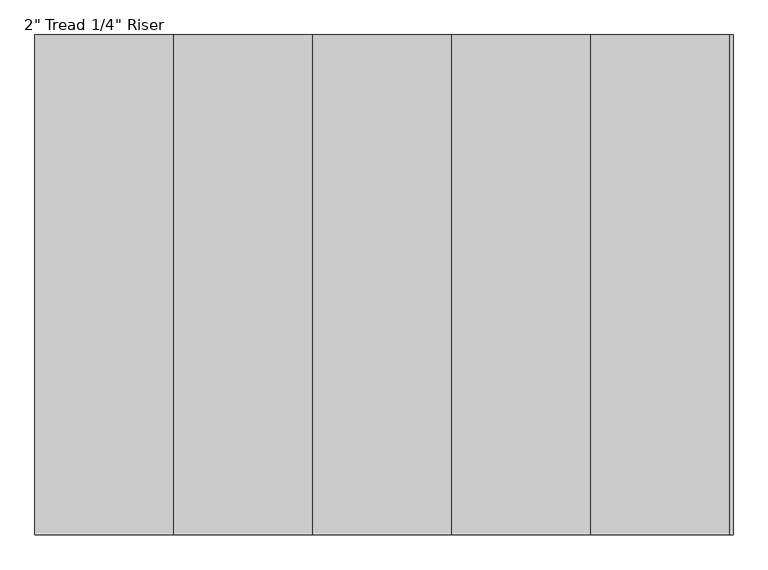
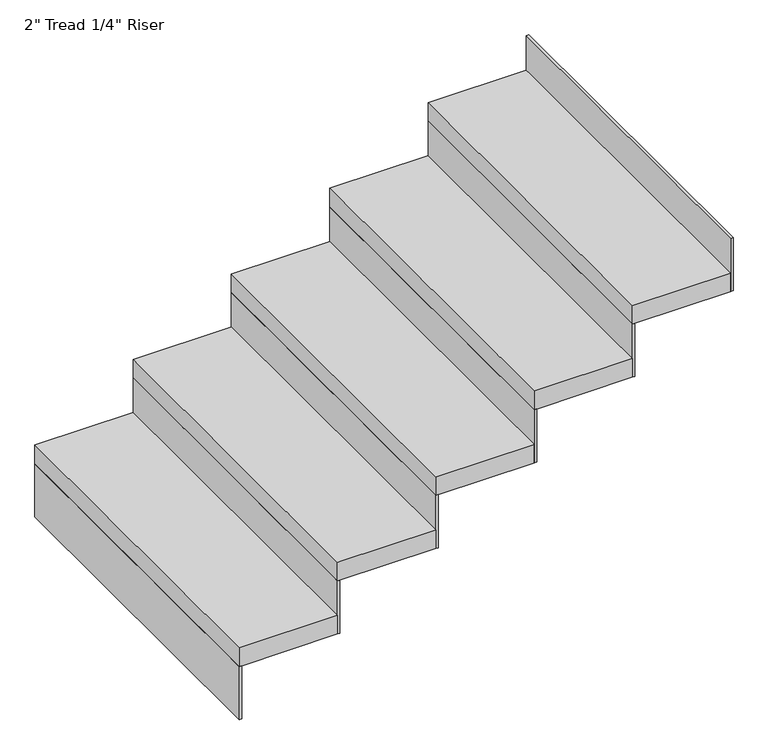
"""IFC4 building model written with IfcOpenShell, lengths in millimetres: stair flight geometry."""

import ifcopenshell
import ifcopenshell.guid

model = None  # the IFC model being written
_history = None  # IfcOwnerHistory: only IFC2X3 demands one
_inside = {}  # id of a spatial element -> (the spatial element, [elements in it])
_under = {}  # id of a project, library or spatial element -> (it, [spatial elements below it])
_declared = {}  # id of a project -> (the project, [libraries it declares])
_typed = {}  # id of a type object -> (the type object, [elements of that type])
_made_of = {}  # id of a material, layer set ... -> (it, [elements and type objects made of it])


def new_model(schema):
    """Start an empty IFC model of exactly this schema.

    Asked for "IFC4X3", IfcOpenShell would pick the latest addendum, in which some entities
    have other attributes; the version numbers below select the first issue.
    IFC2X3 requires an IfcOwnerHistory on every rooted entity: one is made here for all.
    """
    global model, _history
    if schema == "IFC4X3":
        model = ifcopenshell.file(schema_version=(4, 3, 0, 0))
    else:
        model = ifcopenshell.file(schema=schema)
    _inside.clear()
    _under.clear()
    _declared.clear()
    _typed.clear()
    _made_of.clear()
    _history = None
    if model.schema == "IFC2X3":
        org = make("IfcOrganization", Name="unknown")
        user = make(
            "IfcPersonAndOrganization",
            ThePerson=make("IfcPerson", FamilyName="unknown"),
            TheOrganization=org,
        )
        app = make(
            "IfcApplication",
            ApplicationDeveloper=org,
            Version="unknown",
            ApplicationFullName="unknown",
            ApplicationIdentifier="unknown",
        )
        _history = make(
            "IfcOwnerHistory",
            OwningUser=user,
            OwningApplication=app,
            ChangeAction="ADDED",
            CreationDate=0,
        )
    return model


def make(cls, **values):
    """One entity of the class cls with the attributes given. An attribute that is None is left unset."""
    return model.create_entity(
        cls, **{name: value for name, value in values.items() if value is not None}
    )


def rooted(cls, **values):
    """An entity with a GlobalId (a new one), such as an element, a storey or a relation."""
    return make(cls, GlobalId=ifcopenshell.guid.new(), OwnerHistory=_history, **values)


def si_unit(unit_type, name, prefix=None):
    """IfcSIUnit, for example si_unit("LENGTHUNIT", "METRE", prefix="MILLI")."""
    return make("IfcSIUnit", UnitType=unit_type, Prefix=prefix, Name=name)


def assignment(units):
    """IfcUnitAssignment: the units of a project."""
    return None if units is None else make("IfcUnitAssignment", Units=units)


def point(xyz):
    """IfcCartesianPoint."""
    return None if xyz is None else make("IfcCartesianPoint", Coordinates=xyz)


def direction(xyz):
    """IfcDirection."""
    return None if xyz is None else make("IfcDirection", DirectionRatios=xyz)


def frame(location, z_axis=None, x_axis=None):
    """IfcAxis2Placement3D, a coordinate frame: its origin and axes. An axis left out is left unset."""
    return make(
        "IfcAxis2Placement3D",
        Location=point(location),
        Axis=direction(z_axis),
        RefDirection=direction(x_axis),
    )


def origin():
    """The frame at (0, 0, 0) with its axes left unset."""
    return frame((0.0, 0.0, 0.0))


def place(relative_to, where):
    """IfcLocalPlacement: puts the frame where relative to a parent placement (None: the world)."""
    return make(
        "IfcLocalPlacement", PlacementRelTo=relative_to, RelativePlacement=where
    )


def context(
    kind, dimensions, precision=None, world=None, true_north=None, identifier=None
):
    """IfcGeometricRepresentationContext, for example the 3D "Model" context."""
    return make(
        "IfcGeometricRepresentationContext",
        ContextIdentifier=identifier,
        ContextType=kind,
        CoordinateSpaceDimension=dimensions,
        Precision=precision,
        WorldCoordinateSystem=world,
        TrueNorth=true_north,
    )


def project(units=None, contexts=None):
    """IfcProject with its units and contexts."""
    return rooted(
        "IfcProject",
        Name="project",
        RepresentationContexts=contexts,
        UnitsInContext=assignment(units),
    )


def spatial(cls, under=None, at=None, **own):
    """A site, building, storey or space (cls), placed at a placement, below another one or the project."""
    s = rooted(cls, ObjectPlacement=at, **own)
    if under is not None:
        _under.setdefault(under.id(), (under, []))[1].append(s)
    return s


def polyline(points):
    """IfcPolyline through the points."""
    return make("IfcPolyline", Points=[point(p) for p in points])


def outline(outer, holes=None, kind="AREA"):
    """IfcArbitraryClosedProfileDef: a profile drawn as a closed curve; with holes, ...WithVoids."""
    if holes is None:
        return make("IfcArbitraryClosedProfileDef", ProfileType=kind, OuterCurve=outer)
    return make(
        "IfcArbitraryProfileDefWithVoids",
        ProfileType=kind,
        OuterCurve=outer,
        InnerCurves=holes,
    )


def extrude(swept, where, along, depth):
    """IfcExtrudedAreaSolid: the profile swept, set in the frame where, extruded along a direction by depth."""
    return make(
        "IfcExtrudedAreaSolid",
        SweptArea=swept,
        Position=where,
        ExtrudedDirection=direction(along),
        Depth=depth,
    )


def shape(context_of_items, identifier, shape_type, items):
    """IfcShapeRepresentation: the items that make up one representation, for example the "Body"."""
    return make(
        "IfcShapeRepresentation",
        ContextOfItems=context_of_items,
        RepresentationIdentifier=identifier,
        RepresentationType=shape_type,
        Items=items,
    )


def source(mapping_origin, context_of_items, identifier, shape_type, items):
    """IfcRepresentationMap: a shape defined once, which mapped items show again and again."""
    return make(
        "IfcRepresentationMap",
        MappingOrigin=mapping_origin,
        MappedRepresentation=shape(context_of_items, identifier, shape_type, items),
    )


def transform(
    local_origin,
    x_axis=None,
    y_axis=None,
    z_axis=None,
    scale=None,
    scale2=None,
    scale3=None,
    uniform=True,
):
    """IfcCartesianTransformationOperator3D, or its non-uniform kind. x_axis, y_axis, z_axis: its Axis1, 2, 3."""
    if uniform:
        return make(
            "IfcCartesianTransformationOperator3D",
            Axis1=direction(x_axis),
            Axis2=direction(y_axis),
            LocalOrigin=point(local_origin),
            Scale=scale,
            Axis3=direction(z_axis),
        )
    return make(
        "IfcCartesianTransformationOperator3DnonUniform",
        Axis1=direction(x_axis),
        Axis2=direction(y_axis),
        LocalOrigin=point(local_origin),
        Scale=scale,
        Axis3=direction(z_axis),
        Scale2=scale2,
        Scale3=scale3,
    )


def mapped(mapping_source, mapping_target):
    """IfcMappedItem: shows the shape of a source again, moved by a transform."""
    return make(
        "IfcMappedItem", MappingSource=mapping_source, MappingTarget=mapping_target
    )


def made_of(thing, what):
    """Note that an element or type object is made of a material, layer set ...; save() writes the relation."""
    if what is not None:
        _made_of.setdefault(what.id(), (what, []))[1].append(thing)
    return thing


def element(
    cls,
    number,
    at=None,
    inside=None,
    cuts=None,
    type_object=None,
    material=None,
    context=None,
    identifier="Body",
    shape_type=None,
    held_by="IfcProductDefinitionShape",
    body=None,
    shapes=None,
    **own,
):
    """One element of the class cls, such as IfcWall. Its Tag is "e" and its number.

    at: its placement. inside: the storey or other place that contains it. cuts: it is an
    opening in that element (IfcRelVoidsElement). A single representation is given by context,
    identifier, shape_type and body (its items); several are given by shapes. held_by: the class
    of the entity that holds the representations. save() writes the other relations.
    """
    e = rooted(cls, Tag="e%d" % number, ObjectPlacement=at, **own)
    if body is not None:
        shapes = [shape(context, identifier, shape_type, body)]
    if shapes is not None:
        e.Representation = make(held_by, Representations=shapes)
    if inside is not None:
        _inside.setdefault(inside.id(), (inside, []))[1].append(e)
    if cuts is not None:
        rooted(
            "IfcRelVoidsElement", RelatingBuildingElement=cuts, RelatedOpeningElement=e
        )
    if type_object is not None:
        _typed.setdefault(type_object.id(), (type_object, []))[1].append(e)
    return made_of(e, material)


def aggregate(whole, parts):
    """IfcRelAggregates: a whole, such as a stair, and the parts it consists of."""
    return rooted("IfcRelAggregates", RelatingObject=whole, RelatedObjects=parts)


def save(model, path):
    """Write the relations noted so far, then the file.

    IfcRelAggregates (storeys below a building ...), IfcRelContainedInSpatialStructure (elements
    in a storey), IfcRelDefinesByType, IfcRelAssociatesMaterial and IfcRelDeclares: one each for
    every whole, place, type object, material and project.
    """
    for whole, parts in _under.values():
        aggregate(whole, parts)
    for where, things in _inside.values():
        rooted(
            "IfcRelContainedInSpatialStructure",
            RelatedElements=things,
            RelatingStructure=where,
        )
    for kind, things in _typed.values():
        rooted("IfcRelDefinesByType", RelatedObjects=things, RelatingType=kind)
    for what, things in _made_of.values():
        rooted("IfcRelAssociatesMaterial", RelatedObjects=things, RelatingMaterial=what)
    for by, libraries in _declared.values():
        rooted("IfcRelDeclares", RelatingContext=by, RelatedDefinitions=libraries)
    model.write(path)


def stair_flight_840a28c2(model_context):
    return source(origin(), model_context, "Body", "SweptSolid", [
        extrude(outline(polyline([(138283.3974271, -2391.9711813), (138277.0474271, -2391.9711813), (138277.0474271, -1477.5711813), (138283.3974271, -1477.5711813), (138283.3974271, -2391.9711813)])), frame((0.0, 0.0, 2126.3428571), z_axis=(0.0, 0.0, 1.0), x_axis=(1.0, 0.0, 0.0)), (0.0, 0.0, 1.0), 145.1428571),
        extrude(outline(polyline([(138531.0474271, -1477.5711813), (138531.0474271, -2391.9711813), (138277.0474271, -2391.9711813), (138277.0474271, -1477.5711813), (138531.0474271, -1477.5711813)])), frame((0.0, 0.0, 2271.4857143), z_axis=(0.0, 0.0, 1.0), x_axis=(1.0, 0.0, 0.0)), (0.0, 0.0, 1.0), 50.8),
        extrude(outline(polyline([(138537.3974271, -2391.9711813), (138531.0474271, -2391.9711813), (138531.0474271, -1477.5711813), (138537.3974271, -1477.5711813), (138537.3974271, -2391.9711813)])), frame((0.0, 0.0, 2271.4857143), z_axis=(0.0, 0.0, 1.0), x_axis=(1.0, 0.0, 0.0)), (0.0, 0.0, 1.0), 145.1428571),
        extrude(outline(polyline([(138785.0474271, -1477.5711813), (138785.0474271, -2391.9711813), (138531.0474271, -2391.9711813), (138531.0474271, -1477.5711813), (138785.0474271, -1477.5711813)])), frame((0.0, 0.0, 2416.6285714), z_axis=(0.0, 0.0, 1.0), x_axis=(1.0, 0.0, 0.0)), (0.0, 0.0, 1.0), 50.8),
        extrude(outline(polyline([(138791.3974271, -2391.9711813), (138785.0474271, -2391.9711813), (138785.0474271, -1477.5711813), (138791.3974271, -1477.5711813), (138791.3974271, -2391.9711813)])), frame((0.0, 0.0, 2416.6285714), z_axis=(0.0, 0.0, 1.0), x_axis=(1.0, 0.0, 0.0)), (0.0, 0.0, 1.0), 145.1428571),
        extrude(outline(polyline([(139039.0474271, -1477.5711813), (139039.0474271, -2391.9711813), (138785.0474271, -2391.9711813), (138785.0474271, -1477.5711813), (139039.0474271, -1477.5711813)])), frame((0.0, 0.0, 2561.7714286), z_axis=(0.0, 0.0, 1.0), x_axis=(1.0, 0.0, 0.0)), (0.0, 0.0, 1.0), 50.8),
        extrude(outline(polyline([(139045.3974271, -2391.9711813), (139039.0474271, -2391.9711813), (139039.0474271, -1477.5711813), (139045.3974271, -1477.5711813), (139045.3974271, -2391.9711813)])), frame((0.0, 0.0, 2561.7714286), z_axis=(0.0, 0.0, 1.0), x_axis=(1.0, 0.0, 0.0)), (0.0, 0.0, 1.0), 145.1428571),
        extrude(outline(polyline([(139293.0474271, -1477.5711813), (139293.0474271, -2391.9711813), (139039.0474271, -2391.9711813), (139039.0474271, -1477.5711813), (139293.0474271, -1477.5711813)])), frame((0.0, 0.0, 2706.9142857), z_axis=(0.0, 0.0, 1.0), x_axis=(1.0, 0.0, 0.0)), (0.0, 0.0, 1.0), 50.8),
        extrude(outline(polyline([(139299.3974271, -2391.9711813), (139293.0474271, -2391.9711813), (139293.0474271, -1477.5711813), (139299.3974271, -1477.5711813), (139299.3974271, -2391.9711813)])), frame((0.0, 0.0, 2706.9142857), z_axis=(0.0, 0.0, 1.0), x_axis=(1.0, 0.0, 0.0)), (0.0, 0.0, 1.0), 145.1428571),
        extrude(outline(polyline([(139553.3974271, -2391.9711813), (139547.0474271, -2391.9711813), (139547.0474271, -1477.5711813), (139553.3974271, -1477.5711813), (139553.3974271, -2391.9711813)])), frame((0.0, 0.0, 2852.0571429), z_axis=(0.0, 0.0, 1.0), x_axis=(1.0, 0.0, 0.0)), (0.0, 0.0, 1.0), 145.1428571),
        extrude(outline(polyline([(139547.0474271, -1477.5711813), (139547.0474271, -2391.9711813), (139293.0474271, -2391.9711813), (139293.0474271, -1477.5711813), (139547.0474271, -1477.5711813)])), frame((0.0, 0.0, 2852.0571429), z_axis=(0.0, 0.0, 1.0), x_axis=(1.0, 0.0, 0.0)), (0.0, 0.0, 1.0), 50.8),
    ])


if __name__ == "__main__":
    model = new_model("IFC4")
    model_context = context("Model", 3, world=origin())
    ifc_project = project(units=[si_unit("LENGTHUNIT", "METRE", prefix="MILLI")], contexts=[model_context])
    site = spatial("IfcSite", under=ifc_project)
    building = spatial("IfcBuilding", under=site)
    placement = place(None, origin())
    stair_flight_shape = stair_flight_840a28c2(model_context)
    element("IfcStairFlight", 1, ObjectType="2\" Tread 1/4\" Riser", at=placement, inside=building, context=model_context, shape_type="MappedRepresentation", body=[
        mapped(stair_flight_shape, transform((0.0, 0.0, 0.0), x_axis=(1.0, 0.0, 0.0), y_axis=(0.0, 1.0, 0.0), z_axis=(0.0, 0.0, 1.0))),
    ])
    save(model, "model.ifc")
